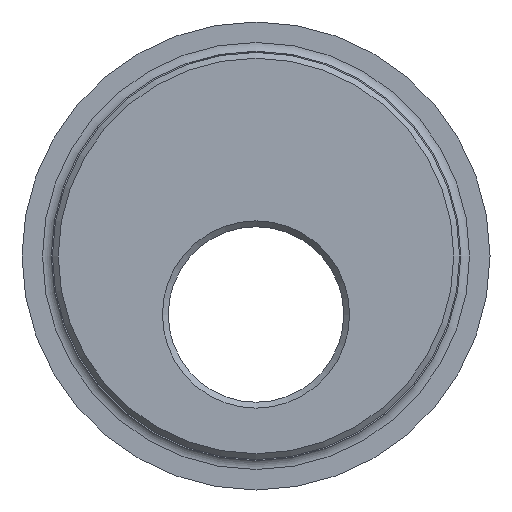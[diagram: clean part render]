
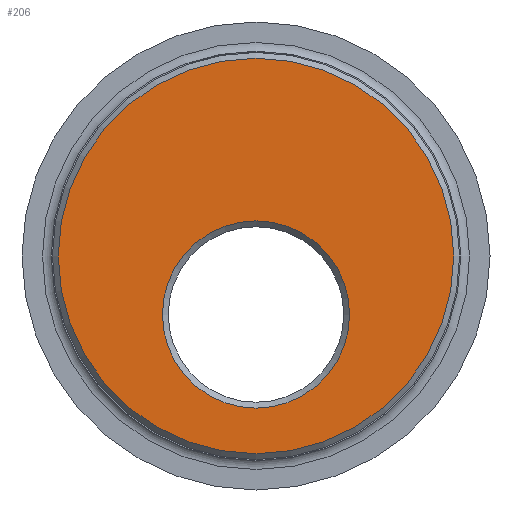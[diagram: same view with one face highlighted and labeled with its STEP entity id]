
A CAD part, front view. The second image highlights one B-rep face of the part: STEP entity #206.
In plain terms, the highlighted planar face has unit normal (0, -1, 0).
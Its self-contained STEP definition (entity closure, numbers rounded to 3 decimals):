
#206=ADVANCED_FACE('',(#390,#392),#394,.T.);
#390=FACE_BOUND('',#391,.T.);
#391=EDGE_LOOP('',(#601));
#392=FACE_BOUND('',#393,.T.);
#393=EDGE_LOOP('',(#602));
#394=PLANE('',#395);
#395=AXIS2_PLACEMENT_3D('',#396,#397,#398);
#396=CARTESIAN_POINT('',(0.,-8.,0.));
#397=DIRECTION('',(0.,-1.,0.));
#398=DIRECTION('',(1.,0.,0.));
#601=ORIENTED_EDGE('',*,*,#627,.T.);
#602=ORIENTED_EDGE('',*,*,#623,.T.);
#623=EDGE_CURVE('',#660,#660,#661,.T.);
#627=EDGE_CURVE('',#668,#668,#669,.T.);
#660=VERTEX_POINT('',#816);
#661=CIRCLE('',#817,8.);
#668=VERTEX_POINT('',#961);
#669=CIRCLE('',#962,16.9);
#816=CARTESIAN_POINT('',(8.,-8.,-5.));
#817=AXIS2_PLACEMENT_3D('',#818,#819,#820);
#818=CARTESIAN_POINT('',(0.,-8.,-5.));
#819=DIRECTION('',(0.,1.,0.));
#820=DIRECTION('',(1.,0.,0.));
#961=CARTESIAN_POINT('',(16.9,-8.,0.));
#962=AXIS2_PLACEMENT_3D('',#963,#964,#965);
#963=CARTESIAN_POINT('',(0.,-8.,0.));
#964=DIRECTION('',(0.,-1.,0.));
#965=DIRECTION('',(1.,0.,0.));
